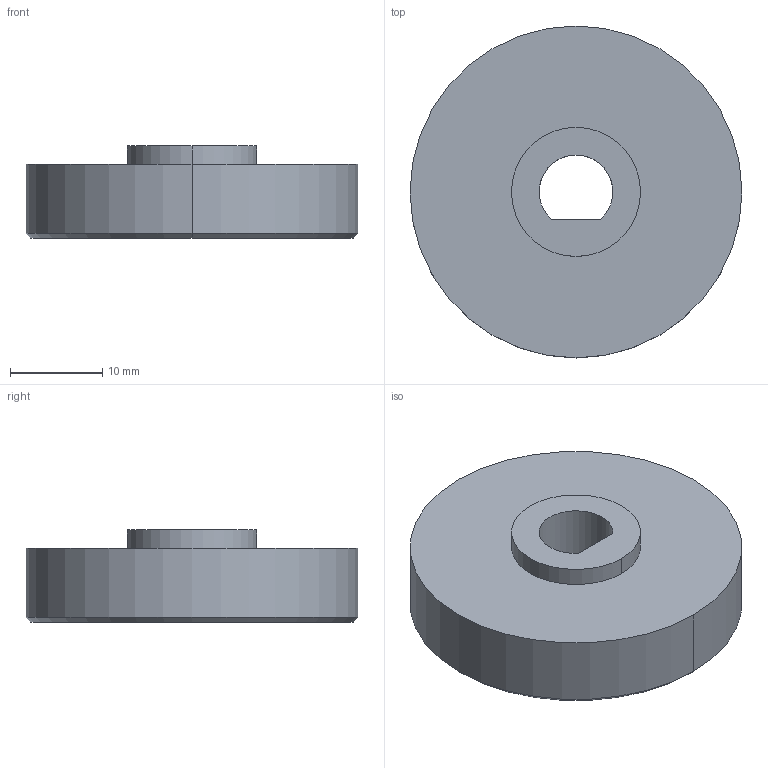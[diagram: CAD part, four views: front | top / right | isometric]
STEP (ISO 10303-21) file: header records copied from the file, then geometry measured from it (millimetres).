
FILE_DESCRIPTION(/* description */ (''),/* implementation_level */ '2;1');
FILE_NAME(/* name */ 'CWC-CY0021-P99_Cylinder Connector.stp',/* time_stamp */ '2026-02-19T08:22:45+01:00',/* author */ (''),/* organization */ (''),/* preprocessor_version */ 'ST-DEVELOPER v18.1',/* originating_system */ 'SIEMENS PLM Software NX 1988',/* authorisation */ '');
FILE_SCHEMA (('AUTOMOTIVE_DESIGN { 1 0 10303 214 3 1 1 1 }'));
Length unit declared in the file: millimetre
Products named in the file (1): anto80DCB5E9lipx
Bounding box: 36 x 36 x 10 mm (x, y, z)
Volume: 7613 mm3; surface area: 3599.2 mm2
Topology: 1 solids, 1 shells, 33 faces, 72 edges, 44 vertices
Faces by surface type: cylinder 17, plane 8, cone 8
Entity records: 935 total; most frequent: DIRECTION 173, CARTESIAN_POINT 160, ORIENTED_EDGE 136, AXIS2_PLACEMENT_3D 73, EDGE_CURVE 68, VERTEX_POINT 44, EDGE_LOOP 42, CIRCLE 39
